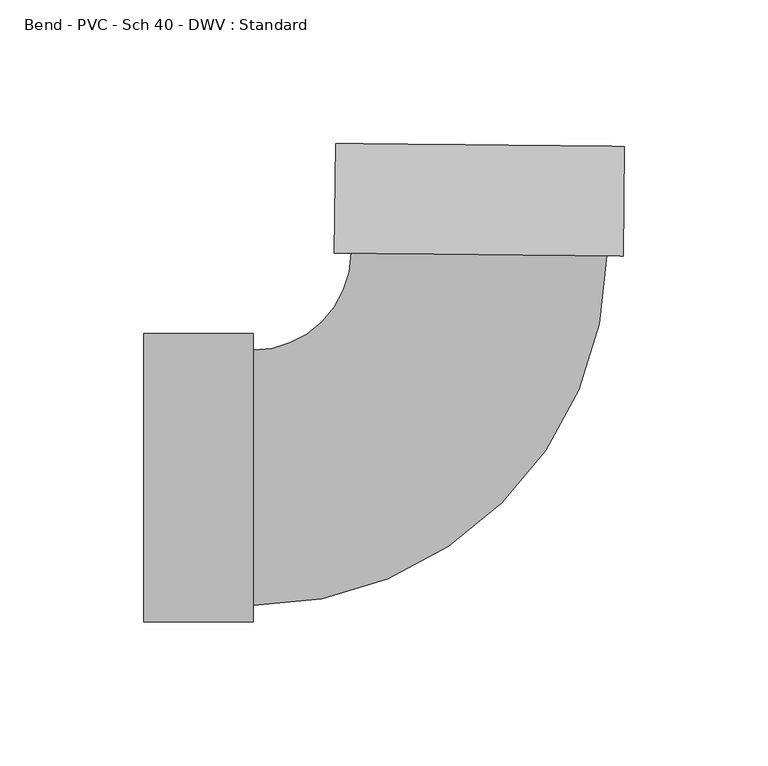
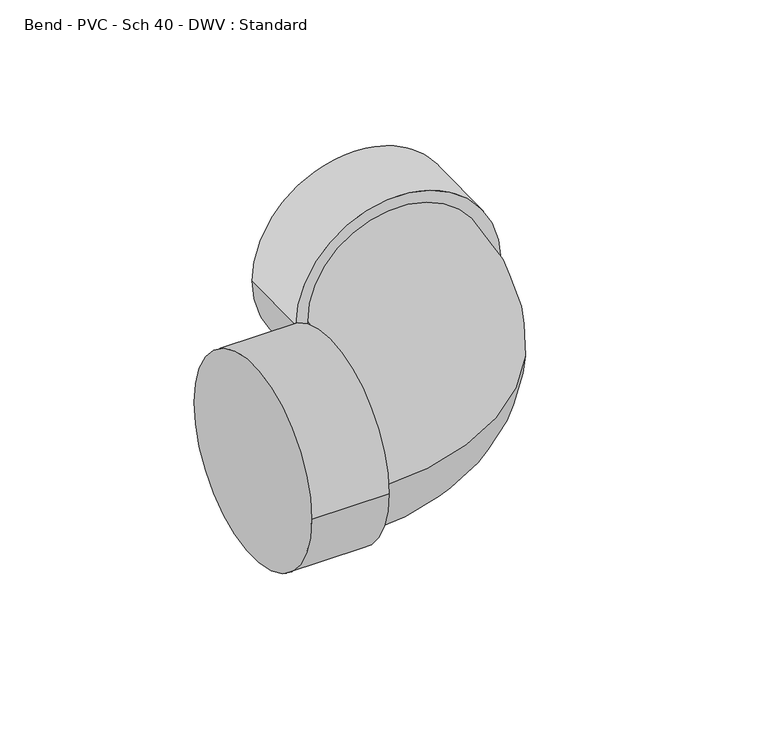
"""IFC4 building model written with IfcOpenShell, lengths in millimetres: pipe fitting geometry, Bend - PVC - Sch 40 - DWV : Standard."""

from ifc_helpers import new_model, si_unit, point, frame, origin, place, context, project, spatial, circle_curve, ellipse_curve, trimmed, source, transform, mapped, element, save
from ifc_brep_helpers import plane_surface, cylinder_surface, revolved_surface, advanced_brep


def bend_pvc_sch_40_dwv_standard_765d4315(model_context):
    return source(origin(), model_context, "Body", "AdvancedBrep", [
        advanced_brep(
        [(-115.9002, -50.2666, 0.0), (-115.9002, 50.2666, 0.0), (-77.8002, -50.2666, 0.0), (-77.8002, 50.2666, 0.0), (-77.8002, -44.45, 0.0), (-77.8002, 44.45, 0.0), (-43.6472004, 78.2534058, 0.0), (45.2480943, 77.3387586, 0.0), (51.0643865, 77.2789145, 0.0), (-49.4634925, 78.3132499, 0.0), (51.4563781, 115.376898, 0.0), (-49.0715008, 116.4112333, 0.0)],
        [
            (0, 1, circle_curve(frame((-115.9002, 0.0, 0.0), z_axis=(-1.0, 0.0, 0.0), x_axis=(0.0, 1.0, 0.0)), 50.2666)),
            (1, 0, circle_curve(frame((-115.9002, 0.0, 0.0), z_axis=(-1.0, 0.0, 0.0), x_axis=(0.0, 1.0, 0.0)), 50.2666)),
            (2, 3, circle_curve(frame((-77.8002, 0.0, 0.0), z_axis=(1.0, 0.0, 0.0), x_axis=(0.0, 1.0, 0.0)), 50.2666)),
            (3, 2, circle_curve(frame((-77.8002, 0.0, 0.0), z_axis=(1.0, 0.0, 0.0), x_axis=(0.0, 1.0, 0.0)), 50.2666)),
            (4, 5, circle_curve(frame((-77.8002, 0.0, 0.0), z_axis=(-1.0, 0.0, 0.0), x_axis=(0.0, 1.0, 0.0)), 44.45)),
            (5, 4, circle_curve(frame((-77.8002, 0.0, 0.0), z_axis=(-1.0, 0.0, 0.0), x_axis=(0.0, 1.0, 0.0)), 44.45)),
            (0, 2),
            (3, 1),
            (6, 5, circle_curve(frame((-77.8002, 78.6048074, 0.0), z_axis=(0.0, 0.0, -1.0), x_axis=(0.0, -1.0, 0.0)), 34.1548074)),
            (4, 7, circle_curve(frame((-77.8002, 78.6048074, 0.0), z_axis=(0.0, 0.0, 1.0), x_axis=(0.0, -1.0, 0.0)), 123.0548074)),
            (7, 6, circle_curve(frame((0.800447, 77.7960822, 0.0), z_axis=(-0.010288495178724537, -0.9999470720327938, 0.0), x_axis=(-0.9999470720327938, 0.010288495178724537, 0.0)), 44.45)),
            (6, 7, circle_curve(frame((0.800447, 77.7960822, 0.0), z_axis=(-0.010288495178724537, -0.9999470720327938, 0.0), x_axis=(-0.9999470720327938, 0.010288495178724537, 0.0)), 44.45)),
            (8, 9, circle_curve(frame((0.800447, 77.7960822, 0.0), z_axis=(-0.01028849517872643, -0.9999470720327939, 0.0), x_axis=(-0.9999470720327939, 0.01028849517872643, 0.0)), 50.2666)),
            (9, 8, circle_curve(frame((0.800447, 77.7960822, 0.0), z_axis=(-0.01028849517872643, -0.9999470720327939, 0.0), x_axis=(-0.9999470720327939, 0.01028849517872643, 0.0)), 50.2666)),
            (10, 11, circle_curve(frame((1.1924386, 115.8940656, 0.0), z_axis=(0.01028849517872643, 0.9999470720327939, 0.0), x_axis=(-0.9999470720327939, 0.01028849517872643, 0.0)), 50.2666)),
            (11, 10, circle_curve(frame((1.1924386, 115.8940656, 0.0), z_axis=(0.01028849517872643, 0.9999470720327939, 0.0), x_axis=(-0.9999470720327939, 0.01028849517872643, 0.0)), 50.2666)),
            (8, 10),
            (11, 9),
        ],
        [
            plane_surface(frame((-115.9002, 0.0, 0.0), z_axis=(-1.0, 0.0, 0.0), x_axis=(0.0, 0.0, 1.0))),
            plane_surface(frame((-77.8002, 0.0, 0.0), z_axis=(1.0, 0.0, 0.0), x_axis=(0.0, 0.0, 1.0))),
            cylinder_surface(frame((-115.9002, 0.0, 0.0), z_axis=(-1.0, 0.0, 0.0), x_axis=(0.0, 1.0, 0.0)), 50.2666),
            revolved_surface(trimmed(ellipse_curve(frame((-77.8002, 0.0, 0.0), z_axis=(-1.0, 0.0, 0.0), x_axis=(0.0, 1.0, 0.0)), 44.45, 44.45), [point((-77.8002, -44.45, 0.0))], [point((-77.8002, 44.45, 0.0))], True, "CARTESIAN"), (-77.8002, 78.6048074, 0.0), (0.0, 0.0, 1.0)),
            revolved_surface(trimmed(ellipse_curve(frame((-77.8002, 0.0, 0.0), z_axis=(-1.0, 0.0, 0.0), x_axis=(0.0, 1.0, 0.0)), 44.45, 44.45), [point((-77.8002, 44.45, 0.0))], [point((-77.8002, -44.45, 0.0))], True, "CARTESIAN"), (-77.8002, 78.6048074, 0.0), (0.0, 0.0, 1.0)),
            plane_surface(frame((0.800447, 77.7960822, 0.0), z_axis=(-0.01028849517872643, -0.9999470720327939, 0.0), x_axis=(0.0, 0.0, 1.0))),
            plane_surface(frame((1.1924386, 115.8940656, 0.0), z_axis=(0.01028849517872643, 0.9999470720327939, 0.0), x_axis=(0.0, 0.0, 1.0))),
            cylinder_surface(frame((0.800447, 77.7960822, 0.0), z_axis=(-0.01028849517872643, -0.9999470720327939, 0.0), x_axis=(-0.9999470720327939, 0.01028849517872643, 0.0)), 50.2666),
        ],
        [
            (0, [[1, 2]]),
            (1, [[3, 4], [5, 6]]),
            (2, [[-1, 7, -4, 8]]),
            (2, [[-2, -8, -3, -7]]),
            (3, [[9, -5, 10, 11]]),
            (4, [[-9, 12, -10, -6]]),
            (5, [[13, 14], [-11, -12]]),
            (6, [[15, 16]]),
            (7, [[-13, 17, -16, 18]]),
            (7, [[-14, -18, -15, -17]]),
        ],
    ),
    ])


if __name__ == "__main__":
    model = new_model("IFC4")
    model_context = context("Model", 3, world=origin())
    ifc_project = project(units=[si_unit("LENGTHUNIT", "METRE", prefix="MILLI")], contexts=[model_context])
    site = spatial("IfcSite", under=ifc_project)
    building = spatial("IfcBuilding", under=site)
    placement = place(None, origin())
    bend_pvc_sch_40_dwv_standard_shape = bend_pvc_sch_40_dwv_standard_765d4315(model_context)
    element("IfcPipeFitting", 1, ObjectType="Bend - PVC - Sch 40 - DWV : Standard", at=placement, inside=building, context=model_context, shape_type="MappedRepresentation", body=[
        mapped(bend_pvc_sch_40_dwv_standard_shape, transform((0.0, 0.0, 0.0), x_axis=(1.0, 0.0, 0.0), y_axis=(0.0, 1.0, 0.0), z_axis=(0.0, 0.0, 1.0))),
    ])
    save(model, "model.ifc")
